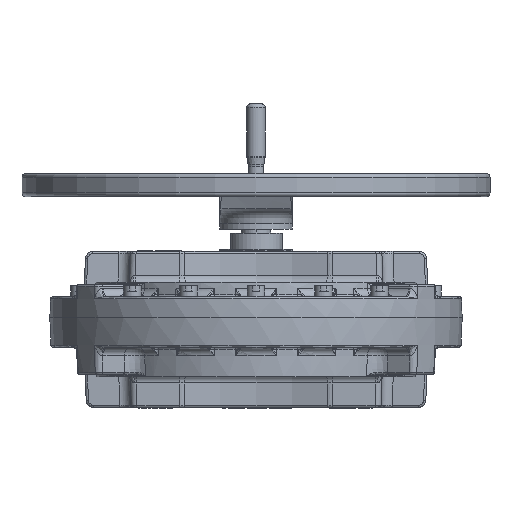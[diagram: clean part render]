
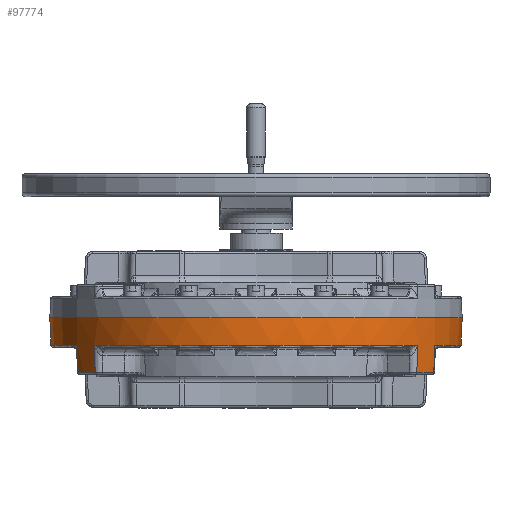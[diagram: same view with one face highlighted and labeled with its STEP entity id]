
A CAD part, front view. The second image highlights one B-rep face of the part: STEP entity #97774.
In plain terms, the highlighted conical face has half-angle 2 degrees and reference radius 277.5 mm.
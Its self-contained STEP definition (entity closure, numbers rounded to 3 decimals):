
#2443 = CARTESIAN_POINT ( 'NONE',  ( 276.204, 0., -37.105 ) ) ;
#4515 = EDGE_CURVE ( 'NONE', #149621, #81846, #139581, .T. ) ;
#4811 = AXIS2_PLACEMENT_3D ( 'NONE', #34720, #123585, #47546 ) ;
#6497 = VERTEX_POINT ( 'NONE', #91790 ) ;
#8983 = DIRECTION ( 'NONE',  ( 0., 0., 1. ) ) ;
#9888 = ORIENTED_EDGE ( 'NONE', *, *, #17377, .T. ) ;
#10888 = VECTOR ( 'NONE', #95527, 1000. ) ;
#13161 = ORIENTED_EDGE ( 'NONE', *, *, #82948, .T. ) ;
#14905 = CARTESIAN_POINT ( 'NONE',  ( -218.56, -170.99, 0. ) ) ;
#15213 = VERTEX_POINT ( 'NONE', #16814 ) ;
#16425 = EDGE_CURVE ( 'NONE', #145951, #40855, #154587, .T. ) ;
#16814 = CARTESIAN_POINT ( 'NONE',  ( 277.5, 0., 0. ) ) ;
#17071 = DIRECTION ( 'NONE',  ( 0.035, 0., 0.999 ) ) ;
#17377 = EDGE_CURVE ( 'NONE', #87447, #145951, #46953, .T. ) ;
#18394 = VERTEX_POINT ( 'NONE', #83731 ) ;
#22246 = CIRCLE ( 'NONE', #141842, 277.5 ) ;
#25164 = ORIENTED_EDGE ( 'NONE', *, *, #87030, .T. ) ;
#29099 = DIRECTION ( 'NONE',  ( 0.03, -0.017, 0.999 ) ) ;
#29241 = CARTESIAN_POINT ( 'NONE',  ( 0., 0., -73.605 ) ) ;
#30491 = CIRCLE ( 'NONE', #76540, 276.204 ) ;
#30658 = DIRECTION ( 'NONE',  ( 0., 0., 1. ) ) ;
#30732 = CARTESIAN_POINT ( 'NONE',  ( -240.486, -135.851, -37.105 ) ) ;
#30963 = ORIENTED_EDGE ( 'NONE', *, *, #158981, .T. ) ;
#33340 = EDGE_CURVE ( 'NONE', #40855, #15213, #67240, .T. ) ;
#33391 = VECTOR ( 'NONE', #17071, 1000. ) ;
#34637 = DIRECTION ( 'NONE',  ( 0.027, -0.022, 0.999 ) ) ;
#34720 = CARTESIAN_POINT ( 'NONE',  ( 0., 0., -37.105 ) ) ;
#35638 = LINE ( 'NONE', #39348, #103366 ) ;
#36157 = CONICAL_SURFACE ( 'NONE', #57031, 277.5, 0.035 ) ;
#39348 = CARTESIAN_POINT ( 'NONE',  ( -277.5, 0., 0. ) ) ;
#40855 = VERTEX_POINT ( 'NONE', #2443 ) ;
#41771 = LINE ( 'NONE', #61348, #139106 ) ;
#42070 = DIRECTION ( 'NONE',  ( 1., 0., 0. ) ) ;
#44763 = LINE ( 'NONE', #133169, #10888 ) ;
#46889 = EDGE_CURVE ( 'NONE', #6497, #18394, #41771, .T. ) ;
#46953 = LINE ( 'NONE', #117989, #80768 ) ;
#47546 = DIRECTION ( 'NONE',  ( 1., 0., 0. ) ) ;
#51893 = VERTEX_POINT ( 'NONE', #115977 ) ;
#52160 = FACE_OUTER_BOUND ( 'NONE', #161857, .T. ) ;
#53014 = ORIENTED_EDGE ( 'NONE', *, *, #86867, .F. ) ;
#56542 = CARTESIAN_POINT ( 'NONE',  ( 277.5, 0., 0. ) ) ;
#57031 = AXIS2_PLACEMENT_3D ( 'NONE', #72737, #99465, #150355 ) ;
#60640 = CARTESIAN_POINT ( 'NONE',  ( 0., 0., -37.105 ) ) ;
#61226 = DIRECTION ( 'NONE',  ( 0., 0., 1. ) ) ;
#61348 = CARTESIAN_POINT ( 'NONE',  ( 218.56, -170.99, 0. ) ) ;
#67240 = LINE ( 'NONE', #56542, #33391 ) ;
#72034 = AXIS2_PLACEMENT_3D ( 'NONE', #29241, #118124, #42070 ) ;
#72737 = CARTESIAN_POINT ( 'NONE',  ( 0., 0., 0. ) ) ;
#73397 = DIRECTION ( 'NONE',  ( 1., 0., 0. ) ) ;
#74772 = VERTEX_POINT ( 'NONE', #30732 ) ;
#76540 = AXIS2_PLACEMENT_3D ( 'NONE', #85186, #8983, #97983 ) ;
#78844 = DIRECTION ( 'NONE',  ( -0.027, -0.022, 0.999 ) ) ;
#80139 = ORIENTED_EDGE ( 'NONE', *, *, #137328, .F. ) ;
#80768 = VECTOR ( 'NONE', #29099, 1000. ) ;
#81846 = VERTEX_POINT ( 'NONE', #124697 ) ;
#82948 = EDGE_CURVE ( 'NONE', #81846, #51893, #128454, .T. ) ;
#82963 = ORIENTED_EDGE ( 'NONE', *, *, #16425, .T. ) ;
#83731 = CARTESIAN_POINT ( 'NONE',  ( 217.54, -170.192, -37.105 ) ) ;
#85186 = CARTESIAN_POINT ( 'NONE',  ( 0., 0., -37.105 ) ) ;
#86867 = EDGE_CURVE ( 'NONE', #101949, #146181, #35638, .T. ) ;
#87030 = EDGE_CURVE ( 'NONE', #6497, #87447, #126978, .T. ) ;
#87447 = VERTEX_POINT ( 'NONE', #139630 ) ;
#90509 = AXIS2_PLACEMENT_3D ( 'NONE', #106894, #30658, #119605 ) ;
#90675 = ORIENTED_EDGE ( 'NONE', *, *, #46889, .F. ) ;
#91790 = CARTESIAN_POINT ( 'NONE',  ( 216.536, -169.406, -73.605 ) ) ;
#94764 = VECTOR ( 'NONE', #78844, 1000. ) ;
#95527 = DIRECTION ( 'NONE',  ( -0.03, -0.017, 0.999 ) ) ;
#97774 = ADVANCED_FACE ( 'NONE', ( #52160 ), #36157, .T. ) ;
#97983 = DIRECTION ( 'NONE',  ( 1., 0., 0. ) ) ;
#99465 = DIRECTION ( 'NONE',  ( 0., 0., 1. ) ) ;
#99893 = ORIENTED_EDGE ( 'NONE', *, *, #127405, .F. ) ;
#101949 = VERTEX_POINT ( 'NONE', #145463 ) ;
#103366 = VECTOR ( 'NONE', #128158, 1000. ) ;
#106894 = CARTESIAN_POINT ( 'NONE',  ( 0., 0., -73.605 ) ) ;
#112463 = CIRCLE ( 'NONE', #145275, 276.204 ) ;
#113452 = CARTESIAN_POINT ( 'NONE',  ( 240.486, -135.851, -37.105 ) ) ;
#115977 = CARTESIAN_POINT ( 'NONE',  ( -217.54, -170.192, -37.105 ) ) ;
#117989 = CARTESIAN_POINT ( 'NONE',  ( 241.614, -136.488, 0. ) ) ;
#118124 = DIRECTION ( 'NONE',  ( 0., 0., 1. ) ) ;
#119605 = DIRECTION ( 'NONE',  ( 1., 0., 0. ) ) ;
#120541 = CARTESIAN_POINT ( 'NONE',  ( -277.5, 0., 0. ) ) ;
#123585 = DIRECTION ( 'NONE',  ( 0., 0., 1. ) ) ;
#124697 = CARTESIAN_POINT ( 'NONE',  ( -216.536, -169.406, -73.605 ) ) ;
#125737 = CARTESIAN_POINT ( 'NONE',  ( -239.376, -135.224, -73.605 ) ) ;
#126978 = CIRCLE ( 'NONE', #72034, 274.93 ) ;
#127405 = EDGE_CURVE ( 'NONE', #149621, #74772, #44763, .T. ) ;
#128158 = DIRECTION ( 'NONE',  ( -0.035, 0., 0.999 ) ) ;
#128454 = LINE ( 'NONE', #14905, #94764 ) ;
#133169 = CARTESIAN_POINT ( 'NONE',  ( -241.614, -136.488, 0. ) ) ;
#134429 = ORIENTED_EDGE ( 'NONE', *, *, #33340, .T. ) ;
#134705 = ORIENTED_EDGE ( 'NONE', *, *, #162849, .T. ) ;
#137278 = CARTESIAN_POINT ( 'NONE',  ( 0., 0., 0. ) ) ;
#137328 = EDGE_CURVE ( 'NONE', #146181, #15213, #22246, .T. ) ;
#139106 = VECTOR ( 'NONE', #34637, 1000. ) ;
#139581 = CIRCLE ( 'NONE', #90509, 274.93 ) ;
#139630 = CARTESIAN_POINT ( 'NONE',  ( 239.376, -135.224, -73.605 ) ) ;
#141842 = AXIS2_PLACEMENT_3D ( 'NONE', #137278, #61226, #149957 ) ;
#145275 = AXIS2_PLACEMENT_3D ( 'NONE', #60640, #149368, #73397 ) ;
#145463 = CARTESIAN_POINT ( 'NONE',  ( -276.204, 0., -37.105 ) ) ;
#145951 = VERTEX_POINT ( 'NONE', #113452 ) ;
#146181 = VERTEX_POINT ( 'NONE', #120541 ) ;
#146605 = ORIENTED_EDGE ( 'NONE', *, *, #4515, .T. ) ;
#149368 = DIRECTION ( 'NONE',  ( 0., 0., 1. ) ) ;
#149621 = VERTEX_POINT ( 'NONE', #125737 ) ;
#149957 = DIRECTION ( 'NONE',  ( 1., 0., 0. ) ) ;
#150355 = DIRECTION ( 'NONE',  ( -1., 0., 0. ) ) ;
#154587 = CIRCLE ( 'NONE', #4811, 276.204 ) ;
#158981 = EDGE_CURVE ( 'NONE', #51893, #18394, #30491, .T. ) ;
#161857 = EDGE_LOOP ( 'NONE', ( #82963, #134429, #80139, #53014, #134705, #99893, #146605, #13161, #30963, #90675, #25164, #9888 ) ) ;
#162849 = EDGE_CURVE ( 'NONE', #101949, #74772, #112463, .T. ) ;
